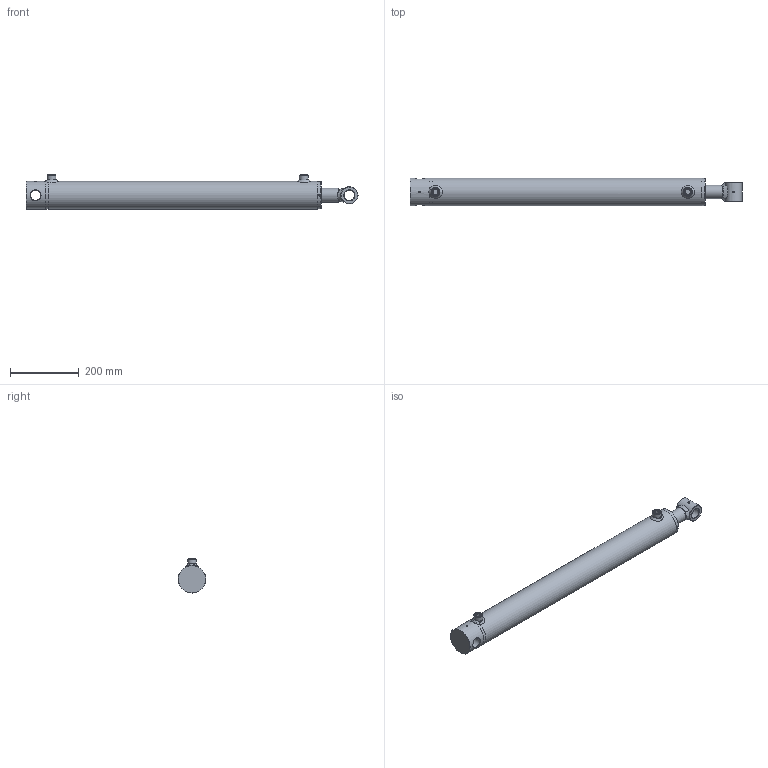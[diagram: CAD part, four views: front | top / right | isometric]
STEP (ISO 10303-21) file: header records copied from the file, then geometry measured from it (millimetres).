
FILE_DESCRIPTION( ( 'Unknown' ), '1' );
FILE_NAME( 'E:/LIBRERIA_3d/CILINDRI/HFR2S/HFR2S0700400700.stp', 'Unknown', ( 'Unknown' ), ( 'Unknown' ), 'PSStep 17.0.49', 'Unknown', ' ' );
FILE_SCHEMA( ( 'AUTOMOTIVE_DESIGN { 1 0 10303 214 1 1 1 1 }' ) );
Length unit declared in the file: millimetre
Products named in the file (21): CTBF070M24; CG08007040; STF2R0700500700-oa5; Saldatura d'angolo 1-oa3; CBS0600000; MAT_PRIMA_TUBO_FT08007000-oa4; Assem1; CFHR070030063; Saldatura con preparazione 1-oa0; Saldatura d'angolo 1-oa1; Saldatura d'angolo 2-oa2; CBF1030050055; APG0600000; SBF2R400700700; AVG3006080
Assembly tree (16 placements, depth 3):
  Saldatura d'angolo 1-oa3
  Saldatura d'angolo 1-oa3
  Assem1
    CFHR070030063
    Saldatura con preparazione 1-oa0
    Saldatura con preparazione 1-oa0
    CBS0600000
    CBF1030050055
    APG0600000  x2
    SBF2R400700700
    AVG3006080
    CG08007040
      CG08007040
    CTBF070M24
      CTBF070M24
    STF2R0700500700-oa5
      CBS0600000
      MAT_PRIMA_TUBO_FT08007000-oa4
  Saldatura d'angolo 1-oa1
  Saldatura d'angolo 1-oa1
Bounding box: 963 x 80 x 99 mm (x, y, z)
Volume: 2525621.2 mm3; surface area: 607275.9 mm2
Topology: 19 solids, 19 shells, 258 faces, 553 edges, 339 vertices
Faces by surface type: plane 62, cylinder 61, bspline 56, cone 42, torus 37
Full cylindrical faces by diameter (mm): 5 x4, 5.5 x2, 6 x3, 7 x2, 14.95 x2, 16 x3, 16.6 x2, 22 x3, 24 x1, 25 x3, 26 x2, 29.5 x1, 30.25 x2, 40 x4, 42 x1, 43 x1, 48.6 x1, 50 x2, 58 x1, 65 x1, 66 x2, 69.4 x2, 69.9 x1, 70 x1, 70.3 x1, 70.5 x1, 70.6 x1, 71 x1, 72 x3, 72.5 x1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
Entity records: 14585 total; most frequent: CARTESIAN_POINT 8376, DIRECTION 762, ORIENTED_EDGE 666, EDGE_LOOP 422, AXIS2_PLACEMENT_3D 372, FACE_OUTER_BOUND 340, EDGE_CURVE 333, VERTEX_POINT 275
